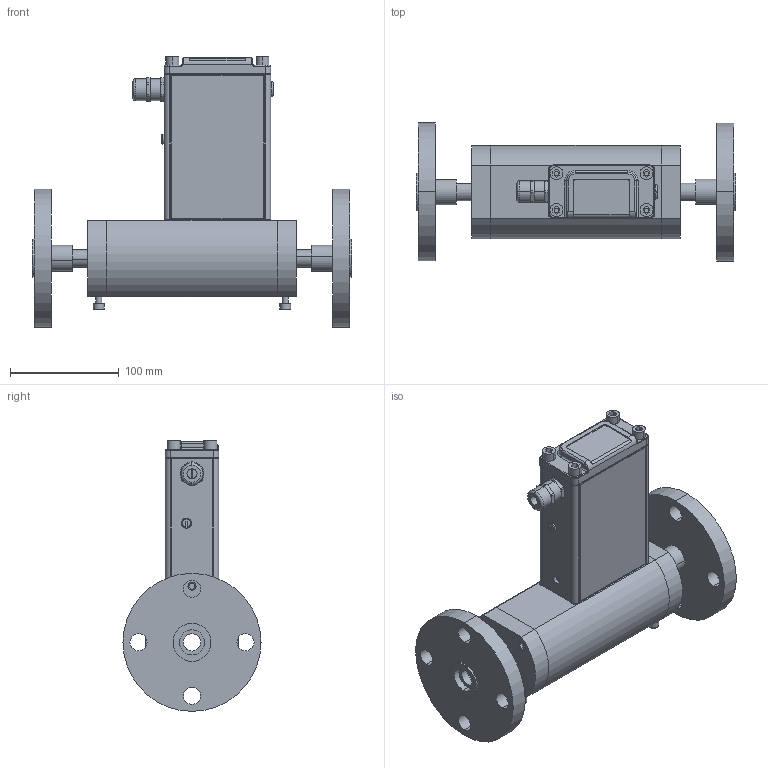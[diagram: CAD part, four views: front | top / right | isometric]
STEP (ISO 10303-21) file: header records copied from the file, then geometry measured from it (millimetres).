
FILE_DESCRIPTION (( 'STEP AP203' ), '1' );
FILE_NAME ('SLAMF63S3Jxx0GxxxREVBSLDASM.STEP', '2017-02-28T14:42:49', ( 'mrutkowski' ), ( 'Hewlett-Packard Company' ), 'SwSTEP 2.0', 'SolidWorks 2014', '' );
FILE_SCHEMA (( 'CONFIG_CONTROL_DESIGN' ));
Length unit declared in the file: inch
Products named in the file (1): SLAMF63S3Jxx0GxxxREVBSLDASM
Bounding box: 293.6 x 127.01 x 249.13 mm (x, y, z)
Surface area: 214742.7 mm2 (no closed solid volume)
Topology: 0 solids, 39 shells, 387 faces, 1200 edges, 846 vertices
Faces by surface type: plane 179, cylinder 154, torus 32, cone 16, bspline 6
Entity records: 13866 total; most frequent: CARTESIAN_POINT 2948, DIRECTION 2380, ORIENTED_EDGE 1957, EDGE_CURVE 1198, AXIS2_PLACEMENT_3D 896, VERTEX_POINT 846, LINE 588, VECTOR 588
